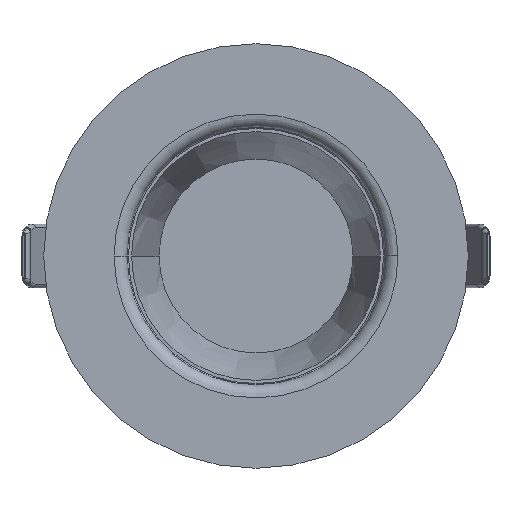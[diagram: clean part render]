
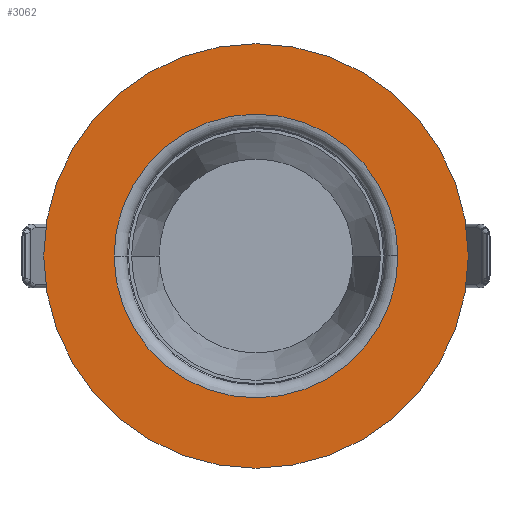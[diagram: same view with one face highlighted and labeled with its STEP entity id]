
A CAD part, front view. The second image highlights one B-rep face of the part: STEP entity #3062.
In plain terms, the highlighted planar face has unit normal (0, -1, 0).
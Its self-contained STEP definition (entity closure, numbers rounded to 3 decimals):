
#434=CARTESIAN_POINT('',(0.,-93.41,0.));
#435=DIRECTION('',(0.,1.,0.));
#436=DIRECTION('',(-1.,0.,-0.01));
#437=AXIS2_PLACEMENT_3D('',#434,#435,#436);
#450=CARTESIAN_POINT('',(0.,-93.41,0.));
#451=DIRECTION('',(0.,-1.,0.));
#452=DIRECTION('',(-1.,0.,-0.01));
#453=AXIS2_PLACEMENT_3D('',#450,#451,#452);
#458=CARTESIAN_POINT('',(0.,-93.41,0.));
#459=DIRECTION('',(0.,-1.,0.));
#460=DIRECTION('',(1.,0.,0.01));
#461=AXIS2_PLACEMENT_3D('',#458,#459,#460);
#466=CARTESIAN_POINT('',(0.,-93.41,0.));
#467=DIRECTION('',(0.,1.,0.));
#468=DIRECTION('',(1.,0.,0.));
#469=AXIS2_PLACEMENT_3D('',#466,#467,#468);
#474=CARTESIAN_POINT('',(0.,-93.41,0.));
#475=DIRECTION('',(0.,1.,0.));
#476=DIRECTION('',(-1.,0.,0.));
#477=AXIS2_PLACEMENT_3D('',#474,#475,#476);
#482=CARTESIAN_POINT('',(0.,-93.41,0.));
#483=DIRECTION('',(0.,1.,0.));
#484=DIRECTION('',(1.,0.,0.01));
#485=AXIS2_PLACEMENT_3D('',#482,#483,#484);
#2642=CARTESIAN_POINT('',(30.749,-93.41,0.293));
#2643=CARTESIAN_POINT('',(-30.75,-93.41,0.));
#2644=VERTEX_POINT('',#2642);
#2645=VERTEX_POINT('',#2643);
#2646=CARTESIAN_POINT('',(30.75,-93.41,0.));
#2647=VERTEX_POINT('',#2646);
#2652=CARTESIAN_POINT('',(-30.749,-93.41,-0.293));
#2653=VERTEX_POINT('',#2652);
#2908=CARTESIAN_POINT('',(46.,-93.41,0.));
#2909=CARTESIAN_POINT('',(-46.,-93.41,0.));
#2910=VERTEX_POINT('',#2908);
#2911=VERTEX_POINT('',#2909);
#3043=CARTESIAN_POINT('',(0.,-93.41,0.));
#3044=DIRECTION('',(0.,-1.,0.));
#3045=DIRECTION('',(-1.,0.,0.));
#3046=AXIS2_PLACEMENT_3D('',#3043,#3044,#3045);
#3047=PLANE('',#3046);
#3049=ORIENTED_EDGE('',*,*,#3048,.T.);
#3051=ORIENTED_EDGE('',*,*,#3050,.T.);
#3052=EDGE_LOOP('',(#3049,#3051));
#3053=FACE_OUTER_BOUND('',#3052,.F.);
#3054=ORIENTED_EDGE('',*,*,#3033,.F.);
#3055=ORIENTED_EDGE('',*,*,#3031,.T.);
#3057=ORIENTED_EDGE('',*,*,#3056,.F.);
#3059=ORIENTED_EDGE('',*,*,#3058,.T.);
#3060=EDGE_LOOP('',(#3054,#3055,#3057,#3059));
#3061=FACE_BOUND('',#3060,.F.);
#3062=ADVANCED_FACE('',(#3053,#3061),#3047,.T.);
#438=CIRCLE('',#437,30.75);
#454=CIRCLE('',#453,30.75);
#462=CIRCLE('',#461,30.75);
#470=CIRCLE('',#469,46.);
#478=CIRCLE('',#477,46.);
#486=CIRCLE('',#485,30.75);
#3031=EDGE_CURVE('',#2653,#2647,#454,.T.);
#3033=EDGE_CURVE('',#2653,#2645,#438,.T.);
#3048=EDGE_CURVE('',#2910,#2911,#470,.T.);
#3050=EDGE_CURVE('',#2911,#2910,#478,.T.);
#3056=EDGE_CURVE('',#2644,#2647,#486,.T.);
#3058=EDGE_CURVE('',#2644,#2645,#462,.T.);
